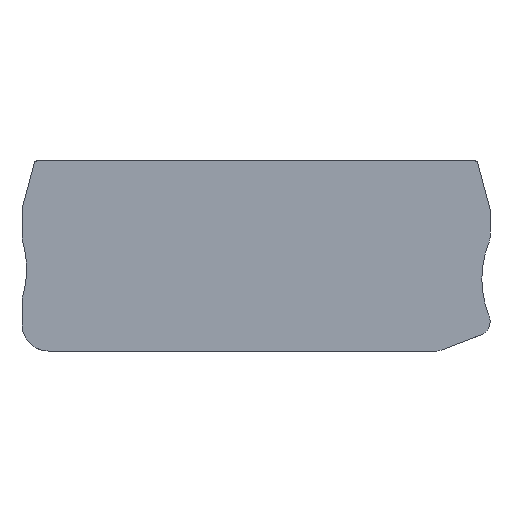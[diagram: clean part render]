
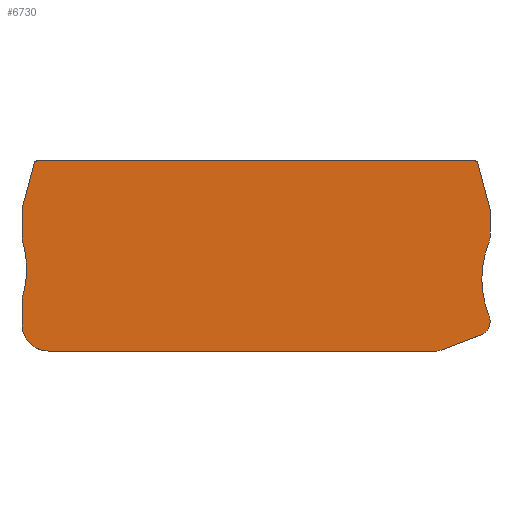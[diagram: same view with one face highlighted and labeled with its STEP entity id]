
A CAD part, top view. The second image highlights one B-rep face of the part: STEP entity #6730.
In plain terms, the highlighted planar face has unit normal (0, 0, 1).
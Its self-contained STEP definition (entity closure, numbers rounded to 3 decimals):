
#60=CARTESIAN_POINT('',(-32.968,-16.531,55.37));
#70=DIRECTION('',(0.,0.,-1.));
#80=DIRECTION('',(-1.,0.,0.));
#90=AXIS2_PLACEMENT_3D('',#60,#70,#80);
#100=CIRCLE('',#90,0.5);
#110=CARTESIAN_POINT('',(-33.468,-16.531,55.37));
#120=VERTEX_POINT('',#110);
#130=CARTESIAN_POINT('',(-33.451,-16.402,55.37));
#140=VERTEX_POINT('',#130);
#150=EDGE_CURVE('',#120,#140,#100,.T.);
#550=CARTESIAN_POINT('',(-31.468,-30.497,55.37));
#560=DIRECTION('',(0.,0.,1.));
#570=DIRECTION('',(1.,0.,0.));
#580=AXIS2_PLACEMENT_3D('',#550,#560,#570);
#590=CIRCLE('',#580,2.);
#600=CARTESIAN_POINT('',(-33.387,-29.933,55.37));
#610=VERTEX_POINT('',#600);
#620=CARTESIAN_POINT('',(-33.468,-30.497,55.37));
#630=VERTEX_POINT('',#620);
#640=EDGE_CURVE('',#610,#630,#590,.T.);
#1040=CARTESIAN_POINT('',(35.688,-9.65,55.37));
#1050=DIRECTION('',(0.,0.,1.));
#1060=DIRECTION('',(1.,0.,0.));
#1070=AXIS2_PLACEMENT_3D('',#1040,#1050,#1060);
#1080=CIRCLE('',#1070,0.5);
#1090=CARTESIAN_POINT('',(36.171,-9.521,55.37));
#1100=VERTEX_POINT('',#1090);
#1110=CARTESIAN_POINT('',(35.688,-9.15,55.37));
#1120=VERTEX_POINT('',#1110);
#1130=EDGE_CURVE('',#1100,#1120,#1080,.T.);
#3350=CARTESIAN_POINT('',(37.532,-16.531,55.37));
#3360=DIRECTION('',(0.,0.,-1.));
#3370=DIRECTION('',(-1.,0.,0.));
#3380=AXIS2_PLACEMENT_3D('',#3350,#3360,#3370);
#3390=CIRCLE('',#3380,0.5);
#3400=CARTESIAN_POINT('',(38.015,-16.402,55.37));
#3410=VERTEX_POINT('',#3400);
#3420=CARTESIAN_POINT('',(38.032,-16.531,55.37));
#3430=VERTEX_POINT('',#3420);
#3440=EDGE_CURVE('',#3410,#3430,#3390,.T.);
#3760=CARTESIAN_POINT('',(-33.468,-12.13,55.37));
#3770=DIRECTION('',(0.,1.,0.));
#3780=VECTOR('',#3770,1.);
#3790=LINE('',#3760,#3780);
#3800=CARTESIAN_POINT('',(-33.468,-20.903,55.37));
#3810=VERTEX_POINT('',#3800);
#3820=EDGE_CURVE('',#3810,#120,#3790,.T.);
#4100=CARTESIAN_POINT('',(30.576,-38.067,55.37));
#4110=VERTEX_POINT('',#4100);
#4140=CARTESIAN_POINT('',(11.446,-45.422,55.37));
#4150=DIRECTION('',(-0.933,-0.359,0.));
#4160=VECTOR('',#4150,1.);
#4170=LINE('',#4140,#4160);
#4180=CARTESIAN_POINT('',(36.75,-35.693,55.37));
#4190=VERTEX_POINT('',#4180);
#4200=EDGE_CURVE('',#4190,#4110,#4170,.T.);
#4480=CARTESIAN_POINT('',(-33.468,-34.2,55.37));
#4490=VERTEX_POINT('',#4480);
#4520=CARTESIAN_POINT('',(-29.468,-34.2,55.37));
#4530=DIRECTION('',(0.,0.,-1.));
#4540=DIRECTION('',(-1.,0.,0.));
#4550=AXIS2_PLACEMENT_3D('',#4520,#4530,#4540);
#4560=CIRCLE('',#4550,4.);
#4570=CARTESIAN_POINT('',(-29.468,-38.2,55.37));
#4580=VERTEX_POINT('',#4570);
#4590=EDGE_CURVE('',#4580,#4490,#4560,.T.);
#4820=CARTESIAN_POINT('',(-31.124,-9.65,55.37));
#4830=DIRECTION('',(0.,0.,1.));
#4840=DIRECTION('',(1.,0.,0.));
#4850=AXIS2_PLACEMENT_3D('',#4820,#4830,#4840);
#4860=CIRCLE('',#4850,0.5);
#4870=CARTESIAN_POINT('',(-31.124,-9.15,55.37));
#4880=VERTEX_POINT('',#4870);
#4890=CARTESIAN_POINT('',(-31.607,-9.521,55.37));
#4900=VERTEX_POINT('',#4890);
#4910=EDGE_CURVE('',#4880,#4900,#4860,.T.);
#5260=CARTESIAN_POINT('',(38.032,-33.826,55.37));
#5270=VERTEX_POINT('',#5260);
#5300=CARTESIAN_POINT('',(38.032,-12.13,55.37));
#5310=DIRECTION('',(0.,1.,0.));
#5320=VECTOR('',#5310,1.);
#5330=LINE('',#5300,#5320);
#5340=CARTESIAN_POINT('',(38.032,-33.604,55.37));
#5350=VERTEX_POINT('',#5340);
#5360=EDGE_CURVE('',#5270,#5350,#5330,.T.);
#5540=CARTESIAN_POINT('',(35.841,-37.082,55.37));
#5550=DIRECTION('',(0.,0.,-1.));
#5560=DIRECTION('',(-1.,0.,0.));
#5570=AXIS2_PLACEMENT_3D('',#5540,#5550,#5560);
#5580=PLANE('',#5570);
#5590=CARTESIAN_POINT('',(36.032,-33.826,55.37));
#5600=DIRECTION('',(0.,0.,1.));
#5610=DIRECTION('',(1.,0.,0.));
#5620=AXIS2_PLACEMENT_3D('',#5590,#5600,#5610);
#5630=CIRCLE('',#5620,2.);
#5640=EDGE_CURVE('',#4190,#5270,#5630,.T.);
#5650=ORIENTED_EDGE('',*,*,#5640,.T.);
#5660=ORIENTED_EDGE('',*,*,#4200,.F.);
#5670=CARTESIAN_POINT('',(29.858,-36.2,55.37));
#5680=DIRECTION('',(0.,0.,1.));
#5690=DIRECTION('',(1.,0.,0.));
#5700=AXIS2_PLACEMENT_3D('',#5670,#5680,#5690);
#5710=CIRCLE('',#5700,2.);
#5720=CARTESIAN_POINT('',(29.858,-38.2,55.37));
#5730=VERTEX_POINT('',#5720);
#5740=EDGE_CURVE('',#5730,#4110,#5710,.T.);
#5750=ORIENTED_EDGE('',*,*,#5740,.T.);
#5760=CARTESIAN_POINT('',(11.446,-38.2,55.37));
#5770=DIRECTION('',(-1.,0.,0.));
#5780=VECTOR('',#5770,1.);
#5790=LINE('',#5760,#5780);
#5800=EDGE_CURVE('',#5730,#4580,#5790,.T.);
#5810=ORIENTED_EDGE('',*,*,#5800,.F.);
#5820=ORIENTED_EDGE('',*,*,#4590,.F.);
#5830=CARTESIAN_POINT('',(-33.468,-12.13,55.37));
#5840=DIRECTION('',(0.,1.,0.));
#5850=VECTOR('',#5840,1.);
#5860=LINE('',#5830,#5850);
#5870=EDGE_CURVE('',#4490,#630,#5860,.T.);
#5880=ORIENTED_EDGE('',*,*,#5870,.F.);
#5890=ORIENTED_EDGE('',*,*,#640,.T.);
#5900=CARTESIAN_POINT('',(-47.777,-25.7,55.37));
#5910=DIRECTION('',(0.,0.,1.));
#5920=DIRECTION('',(1.,0.,0.));
#5930=AXIS2_PLACEMENT_3D('',#5900,#5910,#5920);
#5940=CIRCLE('',#5930,15.);
#5950=CARTESIAN_POINT('',(-32.777,-25.7,55.37));
#5960=VERTEX_POINT('',#5950);
#5970=EDGE_CURVE('',#610,#5960,#5940,.T.);
#5980=ORIENTED_EDGE('',*,*,#5970,.F.);
#5990=CARTESIAN_POINT('',(-33.387,-21.467,55.37));
#6000=VERTEX_POINT('',#5990);
#6010=EDGE_CURVE('',#5960,#6000,#5940,.T.);
#6020=ORIENTED_EDGE('',*,*,#6010,.F.);
#6030=CARTESIAN_POINT('',(-31.468,-20.903,55.37));
#6040=DIRECTION('',(0.,0.,1.));
#6050=DIRECTION('',(1.,0.,0.));
#6060=AXIS2_PLACEMENT_3D('',#6030,#6040,#6050);
#6070=CIRCLE('',#6060,2.);
#6080=EDGE_CURVE('',#3810,#6000,#6070,.T.);
#6090=ORIENTED_EDGE('',*,*,#6080,.T.);
#6100=ORIENTED_EDGE('',*,*,#3820,.F.);
#6110=ORIENTED_EDGE('',*,*,#150,.F.);
#6120=CARTESIAN_POINT('',(-32.306,-12.13,55.37));
#6130=DIRECTION('',(0.259,0.966,0.));
#6140=VECTOR('',#6130,1.);
#6150=LINE('',#6120,#6140);
#6160=EDGE_CURVE('',#140,#4900,#6150,.T.);
#6170=ORIENTED_EDGE('',*,*,#6160,.F.);
#6180=ORIENTED_EDGE('',*,*,#4910,.T.);
#6190=CARTESIAN_POINT('',(11.446,-9.15,55.37));
#6200=DIRECTION('',(1.,0.,0.));
#6210=VECTOR('',#6200,1.);
#6220=LINE('',#6190,#6210);
#6230=EDGE_CURVE('',#4880,#1120,#6220,.T.);
#6240=ORIENTED_EDGE('',*,*,#6230,.F.);
#6250=ORIENTED_EDGE('',*,*,#1130,.T.);
#6260=CARTESIAN_POINT('',(36.87,-12.13,55.37));
#6270=DIRECTION('',(0.259,-0.966,0.));
#6280=VECTOR('',#6270,1.);
#6290=LINE('',#6260,#6280);
#6300=EDGE_CURVE('',#1100,#3410,#6290,.T.);
#6310=ORIENTED_EDGE('',*,*,#6300,.F.);
#6320=ORIENTED_EDGE('',*,*,#3440,.F.);
#6330=CARTESIAN_POINT('',(38.032,-12.13,55.37));
#6340=DIRECTION('',(0.,-1.,0.));
#6350=VECTOR('',#6340,1.);
#6360=LINE('',#6330,#6350);
#6370=CARTESIAN_POINT('',(38.032,-20.796,55.37));
#6380=VERTEX_POINT('',#6370);
#6390=EDGE_CURVE('',#3430,#6380,#6360,.T.);
#6400=ORIENTED_EDGE('',*,*,#6390,.F.);
#6410=CARTESIAN_POINT('',(36.032,-20.796,55.37));
#6420=DIRECTION('',(0.,0.,1.));
#6430=DIRECTION('',(1.,0.,0.));
#6440=AXIS2_PLACEMENT_3D('',#6410,#6420,#6430);
#6450=CIRCLE('',#6440,2.);
#6460=CARTESIAN_POINT('',(37.885,-21.55,55.37));
#6470=VERTEX_POINT('',#6460);
#6480=EDGE_CURVE('',#6470,#6380,#6450,.T.);
#6490=ORIENTED_EDGE('',*,*,#6480,.T.);
#6500=CARTESIAN_POINT('',(51.78,-27.2,55.37));
#6510=DIRECTION('',(0.,0.,1.));
#6520=DIRECTION('',(1.,0.,0.));
#6530=AXIS2_PLACEMENT_3D('',#6500,#6510,#6520);
#6540=CIRCLE('',#6530,15.);
#6550=CARTESIAN_POINT('',(36.78,-27.2,55.37));
#6560=VERTEX_POINT('',#6550);
#6570=EDGE_CURVE('',#6470,#6560,#6540,.T.);
#6580=ORIENTED_EDGE('',*,*,#6570,.F.);
#6590=CARTESIAN_POINT('',(37.885,-32.85,55.37));
#6600=VERTEX_POINT('',#6590);
#6610=EDGE_CURVE('',#6560,#6600,#6540,.T.);
#6620=ORIENTED_EDGE('',*,*,#6610,.F.);
#6630=CARTESIAN_POINT('',(36.032,-33.604,55.37));
#6640=DIRECTION('',(0.,0.,1.));
#6650=DIRECTION('',(1.,0.,0.));
#6660=AXIS2_PLACEMENT_3D('',#6630,#6640,#6650);
#6670=CIRCLE('',#6660,2.);
#6680=EDGE_CURVE('',#5350,#6600,#6670,.T.);
#6690=ORIENTED_EDGE('',*,*,#6680,.T.);
#6700=ORIENTED_EDGE('',*,*,#5360,.T.);
#6710=EDGE_LOOP('',(#6700,#6690,#6620,#6580,#6490,#6400,#6320,#6310,
#6250,#6240,#6180,#6170,#6110,#6100,#6090,#6020,#5980,#5890,#5880,#5820,
#5810,#5750,#5660,#5650));
#6720=FACE_OUTER_BOUND('',#6710,.T.);
#6730=ADVANCED_FACE('',(#6720),#5580,.F.);
